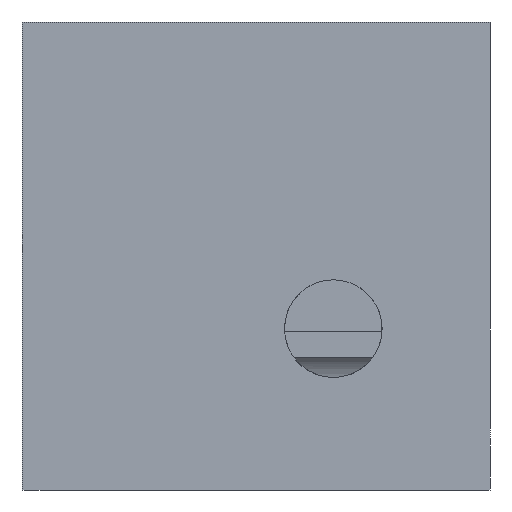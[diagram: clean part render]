
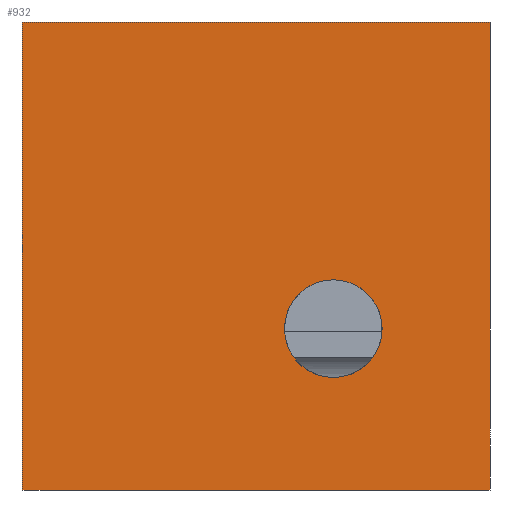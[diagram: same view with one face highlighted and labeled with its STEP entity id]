
A CAD part, left-side view. The second image highlights one B-rep face of the part: STEP entity #932.
In plain terms, the highlighted planar face has unit normal (-1, 0, 0).
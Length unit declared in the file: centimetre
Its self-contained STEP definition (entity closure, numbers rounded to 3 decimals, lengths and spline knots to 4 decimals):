
#129 = LINE ( 'NONE', #1011, #691 ) ;
#176 = ORIENTED_EDGE ( 'NONE', *, *, #630, .F. ) ;
#178 = EDGE_CURVE ( 'NONE', #734, #1378, #1608, .T. ) ;
#182 = DIRECTION ( 'NONE',  ( 0., -1., 0. ) ) ;
#212 = EDGE_CURVE ( 'NONE', #1342, #1633, #1076, .T. ) ;
#290 = CARTESIAN_POINT ( 'NONE',  ( 0., 0., 0. ) ) ;
#316 = ORIENTED_EDGE ( 'NONE', *, *, #768, .T. ) ;
#318 = VECTOR ( 'NONE', #182, 100. ) ;
#345 = VECTOR ( 'NONE', #1213, 100. ) ;
#354 = CARTESIAN_POINT ( 'NONE',  ( 0., 0., 1000. ) ) ;
#375 = DIRECTION ( 'NONE',  ( 0., 0., -1. ) ) ;
#409 = CARTESIAN_POINT ( 'NONE',  ( 0., 334.7942, 449.1285 ) ) ;
#425 = DIRECTION ( 'NONE',  ( 0., 0., -1. ) ) ;
#455 = CARTESIAN_POINT ( 'NONE',  ( 0., 1000., 1000. ) ) ;
#469 = ORIENTED_EDGE ( 'NONE', *, *, #879, .F. ) ;
#487 = DIRECTION ( 'NONE',  ( 0., 0., 1. ) ) ;
#506 = CIRCLE ( 'NONE', #1091, 104.3807 ) ;
#616 = EDGE_LOOP ( 'NONE', ( #1595, #469 ) ) ;
#630 = EDGE_CURVE ( 'NONE', #1633, #1378, #1472, .T. ) ;
#690 = CARTESIAN_POINT ( 'NONE',  ( 0., 334.7942, 344.7478 ) ) ;
#691 = VECTOR ( 'NONE', #375, 100. ) ;
#699 = CARTESIAN_POINT ( 'NONE',  ( 0., 1000., 0. ) ) ;
#734 = VERTEX_POINT ( 'NONE', #992 ) ;
#755 = EDGE_LOOP ( 'NONE', ( #1214, #176, #1622, #316 ) ) ;
#768 = EDGE_CURVE ( 'NONE', #1342, #734, #129, .T. ) ;
#812 = FACE_BOUND ( 'NONE', #616, .T. ) ;
#879 = EDGE_CURVE ( 'NONE', #1617, #1423, #506, .T. ) ;
#881 = AXIS2_PLACEMENT_3D ( 'NONE', #690, #1564, #946 ) ;
#932 = ADVANCED_FACE ( 'NONE', ( #812, #1461 ), #1058, .F. ) ;
#946 = DIRECTION ( 'NONE',  ( 0., 0., 1. ) ) ;
#992 = CARTESIAN_POINT ( 'NONE',  ( 0., 1000., 0. ) ) ;
#1011 = CARTESIAN_POINT ( 'NONE',  ( 0., 1000., 1000. ) ) ;
#1058 = PLANE ( 'NONE',  #1197 ) ;
#1076 = LINE ( 'NONE', #455, #1194 ) ;
#1091 = AXIS2_PLACEMENT_3D ( 'NONE', #1119, #1629, #487 ) ;
#1119 = CARTESIAN_POINT ( 'NONE',  ( 0., 334.7942, 344.7478 ) ) ;
#1178 = CARTESIAN_POINT ( 'NONE',  ( 0., 1000., 1000. ) ) ;
#1194 = VECTOR ( 'NONE', #1206, 100. ) ;
#1197 = AXIS2_PLACEMENT_3D ( 'NONE', #1565, #1560, #425 ) ;
#1206 = DIRECTION ( 'NONE',  ( 0., -1., 0. ) ) ;
#1213 = DIRECTION ( 'NONE',  ( 0., 0., -1. ) ) ;
#1214 = ORIENTED_EDGE ( 'NONE', *, *, #178, .T. ) ;
#1245 = CIRCLE ( 'NONE', #881, 104.3807 ) ;
#1334 = CARTESIAN_POINT ( 'NONE',  ( 0., 0., 1000. ) ) ;
#1342 = VERTEX_POINT ( 'NONE', #1178 ) ;
#1363 = CARTESIAN_POINT ( 'NONE',  ( 0., 334.7942, 240.3671 ) ) ;
#1375 = EDGE_CURVE ( 'NONE', #1423, #1617, #1245, .T. ) ;
#1378 = VERTEX_POINT ( 'NONE', #290 ) ;
#1423 = VERTEX_POINT ( 'NONE', #409 ) ;
#1461 = FACE_OUTER_BOUND ( 'NONE', #755, .T. ) ;
#1472 = LINE ( 'NONE', #1334, #345 ) ;
#1560 = DIRECTION ( 'NONE',  ( 1., 0., 0. ) ) ;
#1564 = DIRECTION ( 'NONE',  ( -1., 0., 0. ) ) ;
#1565 = CARTESIAN_POINT ( 'NONE',  ( 0., 1000., 1000. ) ) ;
#1595 = ORIENTED_EDGE ( 'NONE', *, *, #1375, .F. ) ;
#1608 = LINE ( 'NONE', #699, #318 ) ;
#1617 = VERTEX_POINT ( 'NONE', #1363 ) ;
#1622 = ORIENTED_EDGE ( 'NONE', *, *, #212, .F. ) ;
#1629 = DIRECTION ( 'NONE',  ( -1., 0., 0. ) ) ;
#1633 = VERTEX_POINT ( 'NONE', #354 ) ;
